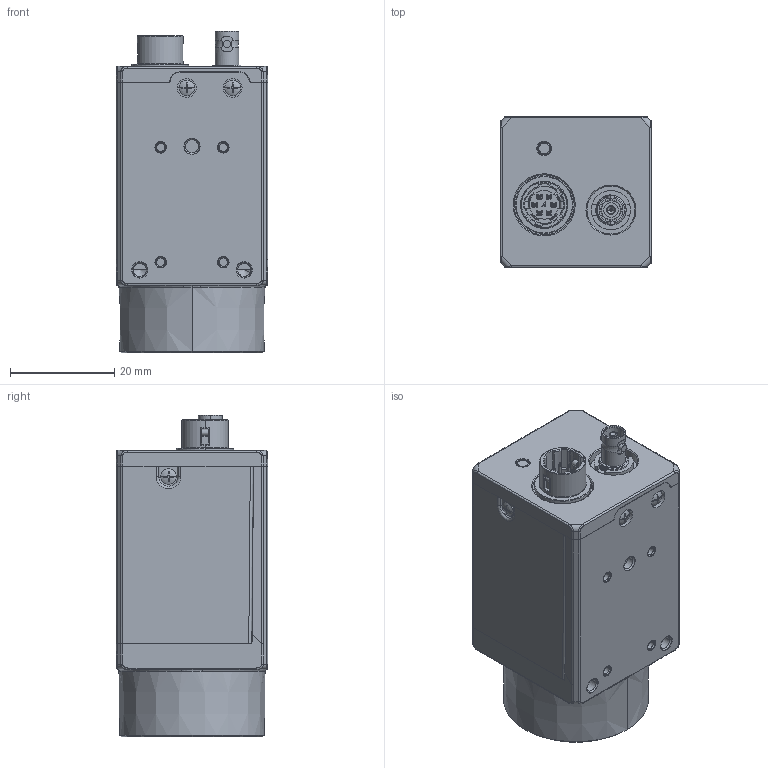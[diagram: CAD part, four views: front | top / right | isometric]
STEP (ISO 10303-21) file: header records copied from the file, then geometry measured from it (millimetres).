
FILE_DESCRIPTION((''),'2;1');
FILE_NAME('ASM0010_ASM','2024-07-22T10:25:39',('gengdawei'),(''),'CREO PARAMETRIC BY PTC INC, 2020044','CREO PARAMETRIC BY PTC INC, 2020044','');
FILE_SCHEMA(('CONFIG_CONTROL_DESIGN'));
Products named in the file (1): ASM0010_ASM
Bounding box: 29.03 x 29 x 61.62 mm (x, y, z)
Volume: 6628.4 mm3; surface area: 23703.5 mm2
Topology: 5 solids, 49 shells, 2410 faces, 6981 edges, 4613 vertices
Faces by surface type: plane 1114, cylinder 776, bspline 233, cone 154, torus 120, sphere 11, extrusion 2
Entity records: 114027 total; most frequent: CARTESIAN_POINT 52685, ORIENTED_EDGE 13695, DIRECTION 11639, EDGE_CURVE 6958, VERTEX_POINT 4613, AXIS2_PLACEMENT_3D 4102, VECTOR 3435, LINE 3433
